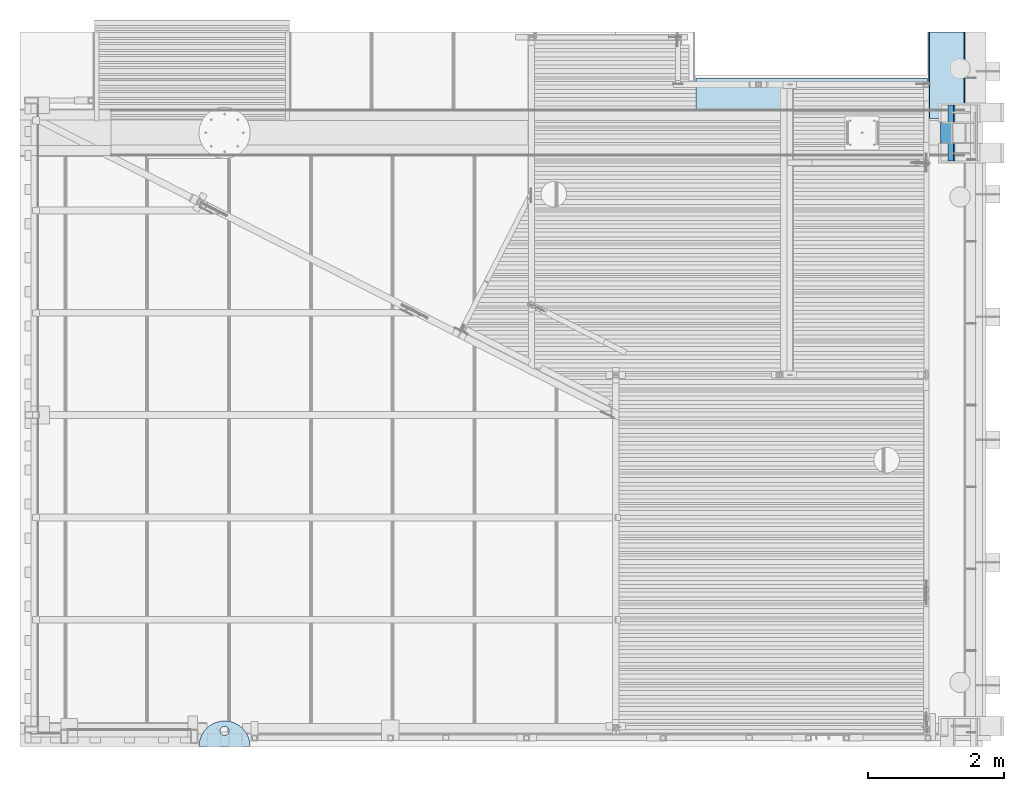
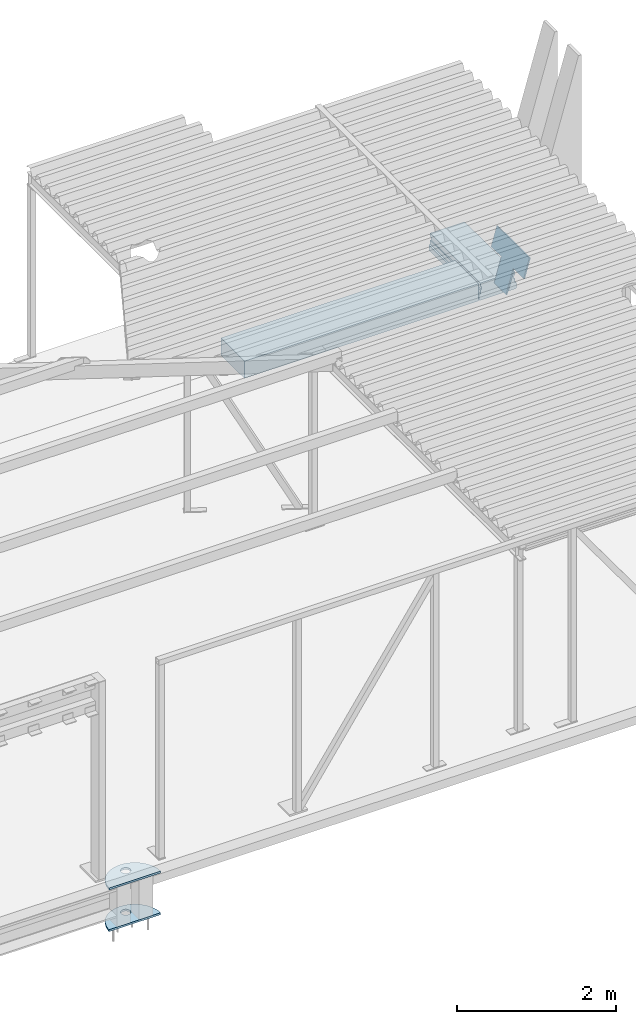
# One storey, part 29 of 30: 3 plates, 2 slabs.
"""IFC2X3 building model written with IfcOpenShell, lengths in millimetres."""

from ifc_helpers import new_model, entity, si_unit, converted_unit, derived_unit, direction, frame, origin_with_axes, place, context, subcontext, project, spatial, faceted_brep, material, type_object, element, save


model = new_model("IFC2X3")

# Units and contexts
model_context = context("Model", 3, precision=0.01, world=frame((0.0, 4.29681676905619e-09, 0.0)), true_north=direction((4.01073788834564e-13, 1.0)))
plan_context = context("Plan", 3, precision=0.01, world=frame((0.0, 4.29681676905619e-09, 0.0)), true_north=direction((4.01073788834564e-13, 1.0)))
body_context = subcontext(model_context, "Body", "Model", "MODEL_VIEW")
ifc_project = project(units=[converted_unit("PLANEANGLEUNIT", "DEGREE", entity("IfcPositiveLengthMeasure", 0.0174532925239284), si_unit("PLANEANGLEUNIT", "RADIAN"), dimensions=[0, 0, 0, 0, 0, 0, 0]), si_unit("AREAUNIT", "SQUARE_METRE"), si_unit("LENGTHUNIT", "METRE", prefix="MILLI"), si_unit("MASSUNIT", "GRAM", prefix="KILO"), si_unit("POWERUNIT", "WATT"), si_unit("PRESSUREUNIT", "PASCAL"), si_unit("FORCEUNIT", "NEWTON", prefix="KILO"), si_unit("ELECTRICVOLTAGEUNIT", "VOLT"), si_unit("ELECTRICCURRENTUNIT", "AMPERE"), si_unit("THERMODYNAMICTEMPERATUREUNIT", "DEGREE_CELSIUS"), si_unit("TIMEUNIT", "SECOND"), si_unit("VOLUMEUNIT", "CUBIC_METRE"), derived_unit("LINEARVELOCITYUNIT", [(si_unit("LENGTHUNIT", "METRE"), 1), (si_unit("TIMEUNIT", "SECOND"), -1)]), derived_unit("VOLUMETRICFLOWRATEUNIT", [(si_unit("VOLUMEUNIT", "CUBIC_METRE"), 1), (si_unit("TIMEUNIT", "SECOND"), -1)]), derived_unit("THERMALTRANSMITTANCEUNIT", [(si_unit("POWERUNIT", "WATT"), 1), (si_unit("THERMODYNAMICTEMPERATUREUNIT", "KELVIN"), -1), (si_unit("AREAUNIT", "SQUARE_METRE"), -1)]), derived_unit("SOUNDPRESSUREUNIT", [(si_unit("PRESSUREUNIT", "PASCAL"), 1)])], contexts=[model_context, plan_context])

# Site, building, storey
site_placement = place(None, frame((0.0, -4.29681676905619e-09, 0.0), z_axis=(0.0, 0.0, 1.0), x_axis=(1.0, 0.0, 0.0)))
site = spatial("IfcSite", under=ifc_project, at=site_placement, Name="Gardermoen", CompositionType="ELEMENT")
building_placement = place(site_placement, frame((0.0, 4.29681676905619e-09, 0.0), z_axis=(0.0, 0.0, 1.0), x_axis=(1.0, 0.0, 0.0)))
building = spatial("IfcBuilding", under=site, at=building_placement, Name="TI", CompositionType="ELEMENT")
storey_placement = place(building_placement, origin_with_axes())
storey = spatial("IfcBuildingStorey", under=building, at=storey_placement, Name="F", CompositionType="ELEMENT", Elevation=0.0)

# Plates
ifc_material_1 = material(Name="STEEL/S355")
plate_type_1 = type_object("IfcPlateType", Name="PL20*683", PredefinedType="NOTDEFINED")
plate_1_placement = place(storey_placement, frame((611700.659906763, 698409.760836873, 211314.494570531), z_axis=(-0.276515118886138, 0.0, -0.961009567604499), x_axis=(0.0, -1.0, 0.0)))
element("IfcPlate", 1, at=plate_1_placement, inside=storey, type_object=plate_type_1, material=ifc_material_1, Name="STÅLSØYLE", ObjectType="PL20*683", context=body_context, shape_type="Brep", body=[
    faceted_brep([(0.0, -10.0, -1.16415321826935e-10), (0.100000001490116, -10.0000000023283, 302.680480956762), (0.100000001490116, 9.99999999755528, 302.680480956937), (0.0, 10.0, -1.16415321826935e-10), (260.0, -10.0000000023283, 302.680480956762), (260.0, 9.99999999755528, 302.680480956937), (260.0, -9.9999999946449, 683.373901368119), (260.0, 10.0000000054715, 683.373901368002), (560.0, -9.9999999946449, 683.373901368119), (560.0, 10.0000000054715, 683.373901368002), (560.0, -10.0000000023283, 302.680480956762), (560.0, 9.99999999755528, 302.680480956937), (820.0, -10.0000000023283, 302.680480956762), (820.0, 9.99999999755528, 302.680480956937), (820.0, -10.0000000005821, -1.45519152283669e-11), (820.0, 10.0000000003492, -1.45519152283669e-11)], [[[0, 1, 2, 3]], [[1, 4, 5, 2]], [[4, 6, 7, 5]], [[6, 8, 9, 7]], [[8, 10, 11, 9]], [[10, 12, 13, 11]], [[12, 14, 15, 13]], [[14, 0, 3, 15]], [[5, 7, 9, 11, 13, 15, 3, 2]], [[14, 12, 10, 8, 6, 4, 1, 0]]]),
])
plate_type_2 = type_object("IfcPlateType", Name="PL30*750", PredefinedType="NOTDEFINED")
plate_2_placement = place(storey_placement, frame((601375.0, 688625.004375, 210705.0), z_axis=(-1.0, 0.0, 0.0), x_axis=(0.0, 1.0, 0.0)))
element("IfcPlate", 2, at=plate_2_placement, inside=storey, type_object=plate_type_2, Name="INNSTØPNGODS", ObjectType="PL30*750", context=body_context, shape_type="Brep", body=[
    faceted_brep([(657.581729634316, -15.0, 336.79395860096), (657.581729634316, 15.0, 336.79395860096), (666.814298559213, 15.0, 354.913895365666), (666.814298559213, -15.0, 354.913895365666), (669.995624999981, 15.0, 375.0), (669.995624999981, -15.0, 375.0), (666.814298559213, 15.0, 395.086104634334), (666.814298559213, -15.0, 395.086104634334), (657.581729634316, 15.0, 413.20604139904), (657.581729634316, -15.0, 413.20604139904), (643.201666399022, 15.0, 427.586104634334), (643.201666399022, -15.0, 427.586104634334), (625.081729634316, 15.0, 436.818673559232), (625.081729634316, -15.0, 436.818673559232), (604.995624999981, 15.0, 440.0), (604.995624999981, -15.0, 440.0), (584.909520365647, 15.0, 436.818673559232), (584.909520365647, -15.0, 436.818673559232), (566.789583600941, 15.0, 427.586104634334), (566.789583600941, -15.0, 427.586104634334), (552.409520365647, 15.0, 413.20604139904), (552.409520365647, -15.0, 413.20604139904), (543.17695144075, 15.0, 395.086104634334), (543.17695144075, -15.0, 395.086104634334), (539.995624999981, 15.0, 375.0), (539.995624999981, -15.0, 375.0), (543.17695144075, 15.0, 354.913895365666), (543.17695144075, -15.0, 354.913895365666), (552.409520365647, 15.0, 336.79395860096), (552.409520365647, -15.0, 336.79395860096), (566.789583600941, 15.0, 322.413895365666), (566.789583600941, -15.0, 322.413895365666), (584.909520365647, 15.0, 313.181326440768), (584.909520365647, -15.0, 313.181326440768), (604.995624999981, 15.0, 310.0), (604.995624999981, -15.0, 310.0), (625.081729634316, 15.0, 313.181326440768), (625.081729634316, -15.0, 313.181326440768), (643.201666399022, 15.0, 322.413895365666), (643.201666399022, -15.0, 322.413895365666), (374.995429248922, -15.0, 0.000276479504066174), (374.995429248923, -15.0, 749.999723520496), (375.0, -15.0, 750.0), (420.201255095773, -15.0, 747.265827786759), (464.743374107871, -15.0, 739.103181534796), (507.976832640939, -15.0, 725.631091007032), (549.27118951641, -15.0, 707.046009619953), (588.024280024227, -15.0, 683.618949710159), (623.670996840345, -15.0, 655.691530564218), (655.691530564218, -15.0, 623.670996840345), (683.618949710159, -15.0, 588.024280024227), (707.046009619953, -15.0, 549.27118951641), (725.631091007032, -15.0, 507.976832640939), (739.103181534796, -15.0, 464.743374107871), (747.265827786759, -15.0, 420.201255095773), (750.0, -15.0, 375.0), (747.265827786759, -15.0, 329.798744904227), (739.103181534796, -15.0, 285.256625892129), (725.631091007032, -15.0, 242.023167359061), (707.046009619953, -15.0, 200.72881048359), (683.618949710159, -15.0, 161.975719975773), (655.691530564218, -15.0, 126.329003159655), (623.670996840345, -15.0, 94.3084694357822), (588.024280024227, -15.0, 66.3810502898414), (549.27118951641, -15.0, 42.9539903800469), (507.976832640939, -15.0, 24.3689089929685), (464.743374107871, -15.0, 10.896818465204), (420.201255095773, -15.0, 2.73417221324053), (375.0, -15.0, 0.0), (374.995581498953, 14.9999999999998, 749.999732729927), (375.0, 15.0, 750.0), (420.201255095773, 15.0, 747.265827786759), (464.743374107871, 15.0, 739.103181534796), (507.976832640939, 15.0, 725.631091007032), (549.27118951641, 15.0, 707.046009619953), (588.024280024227, 15.0, 683.618949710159), (623.670996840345, 15.0, 655.691530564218), (655.691530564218, 15.0, 623.670996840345), (683.618949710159, 15.0, 588.024280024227), (707.046009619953, 15.0, 549.27118951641), (725.631091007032, 15.0, 507.976832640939), (739.103181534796, 15.0, 464.743374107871), (747.265827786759, 15.0, 420.201255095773), (750.0, 15.0, 375.0), (747.265827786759, 15.0, 329.798744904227), (739.103181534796, 15.0, 285.256625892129), (725.631091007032, 15.0, 242.023167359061), (707.046009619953, 15.0, 200.72881048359), (683.618949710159, 15.0, 161.975719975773), (655.691530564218, 15.0, 126.329003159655), (623.670996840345, 15.0, 94.3084694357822), (588.024280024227, 15.0, 66.3810502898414), (549.27118951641, 15.0, 42.9539903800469), (507.976832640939, 15.0, 24.3689089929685), (464.743374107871, 15.0, 10.896818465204), (420.201255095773, 15.0, 2.73417221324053), (375.0, 15.0, 0.0), (374.995624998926, 14.9999999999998, 0.000264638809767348)], [[[0, 1, 2, 3]], [[3, 2, 4, 5]], [[5, 4, 6, 7]], [[7, 6, 8, 9]], [[9, 8, 10, 11]], [[11, 10, 12, 13]], [[13, 12, 14, 15]], [[15, 14, 16, 17]], [[17, 16, 18, 19]], [[19, 18, 20, 21]], [[21, 20, 22, 23]], [[23, 22, 24, 25]], [[25, 24, 26, 27]], [[27, 26, 28, 29]], [[29, 28, 30, 31]], [[31, 30, 32, 33]], [[33, 32, 34, 35]], [[35, 34, 36, 37]], [[37, 36, 38, 39]], [[39, 38, 1, 0]], [[40, 41, 42, 43, 44, 45, 46, 47, 48, 49, 50, 51, 52, 53, 54, 55, 56, 57, 58, 59, 60, 61, 62, 63, 64, 65, 66, 67, 68], [3, 5, 7, 9, 11, 13, 15, 17, 19, 21, 23, 25, 27, 29, 31, 33, 35, 37, 39, 0]], [[41, 69, 70, 42]], [[70, 71, 43, 42]], [[71, 72, 44, 43]], [[72, 73, 45, 44]], [[73, 74, 46, 45]], [[74, 75, 47, 46]], [[75, 76, 48, 47]], [[76, 77, 49, 48]], [[77, 78, 50, 49]], [[78, 79, 51, 50]], [[79, 80, 52, 51]], [[80, 81, 53, 52]], [[81, 82, 54, 53]], [[82, 83, 55, 54]], [[83, 84, 56, 55]], [[84, 85, 57, 56]], [[85, 86, 58, 57]], [[86, 87, 59, 58]], [[87, 88, 60, 59]], [[88, 89, 61, 60]], [[89, 90, 62, 61]], [[90, 91, 63, 62]], [[91, 92, 64, 63]], [[92, 93, 65, 64]], [[93, 94, 66, 65]], [[94, 95, 67, 66]], [[95, 96, 68, 67]], [[97, 40, 68, 96]], [[69, 97, 96, 95, 94, 93, 92, 91, 90, 89, 88, 87, 86, 85, 84, 83, 82, 81, 80, 79, 78, 77, 76, 75, 74, 73, 72, 71, 70], [6, 4, 2, 1, 38, 36, 34, 32, 30, 28, 26, 24, 22, 20, 18, 16, 14, 12, 10, 8]], [[96, 70, 42, 68]]], orient=[[False], [False], [False], [False], [False], [False], [False], [False], [False], [False], [False], [False], [False], [False], [False], [False], [False], [False], [False], [False], [False, False], [False], [False], [False], [False], [False], [False], [False], [False], [False], [False], [False], [False], [False], [False], [False], [False], [False], [False], [False], [False], [False], [False], [False], [False], [False], [False], [False], [False], [False, False], [False]]),
])
plate_3_placement = place(storey_placement, frame((601375.0, 688625.004375, 210065.0), z_axis=(-1.0, 0.0, 0.0), x_axis=(0.0, 1.0, 0.0)))
element("IfcPlate", 3, at=plate_3_placement, inside=storey, type_object=plate_type_2, Name="INNSTØPNGODS", ObjectType="PL30*750", context=body_context, shape_type="Brep", body=[
    faceted_brep([(657.581729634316, -15.0, 336.79395860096), (657.581729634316, 15.0, 336.79395860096), (666.814298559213, 15.0, 354.913895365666), (666.814298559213, -15.0, 354.913895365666), (669.995624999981, 15.0, 375.0), (669.995624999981, -15.0, 375.0), (666.814298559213, 15.0, 395.086104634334), (666.814298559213, -15.0, 395.086104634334), (657.581729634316, 15.0, 413.20604139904), (657.581729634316, -15.0, 413.20604139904), (643.201666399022, 15.0, 427.586104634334), (643.201666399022, -15.0, 427.586104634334), (625.081729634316, 15.0, 436.818673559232), (625.081729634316, -15.0, 436.818673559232), (604.995624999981, 15.0, 440.0), (604.995624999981, -15.0, 440.0), (584.909520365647, 15.0, 436.818673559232), (584.909520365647, -15.0, 436.818673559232), (566.789583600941, 15.0, 427.586104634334), (566.789583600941, -15.0, 427.586104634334), (552.409520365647, 15.0, 413.20604139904), (552.409520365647, -15.0, 413.20604139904), (543.17695144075, 15.0, 395.086104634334), (543.17695144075, -15.0, 395.086104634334), (539.995624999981, 15.0, 375.0), (539.995624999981, -15.0, 375.0), (543.17695144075, 15.0, 354.913895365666), (543.17695144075, -15.0, 354.913895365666), (552.409520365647, 15.0, 336.79395860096), (552.409520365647, -15.0, 336.79395860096), (566.789583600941, 15.0, 322.413895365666), (566.789583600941, -15.0, 322.413895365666), (584.909520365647, 15.0, 313.181326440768), (584.909520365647, -15.0, 313.181326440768), (604.995624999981, 15.0, 310.0), (604.995624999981, -15.0, 310.0), (625.081729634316, 15.0, 313.181326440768), (625.081729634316, -15.0, 313.181326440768), (643.201666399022, 15.0, 322.413895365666), (643.201666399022, -15.0, 322.413895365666), (374.995429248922, -15.0, 0.000276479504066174), (374.995429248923, -15.0, 749.999723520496), (375.0, -15.0, 750.0), (420.201255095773, -15.0, 747.265827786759), (464.743374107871, -15.0, 739.103181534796), (507.976832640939, -15.0, 725.631091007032), (549.27118951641, -15.0, 707.046009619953), (588.024280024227, -15.0, 683.618949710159), (623.670996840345, -15.0, 655.691530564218), (655.691530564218, -15.0, 623.670996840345), (683.618949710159, -15.0, 588.024280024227), (707.046009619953, -15.0, 549.27118951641), (725.631091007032, -15.0, 507.976832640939), (739.103181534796, -15.0, 464.743374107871), (747.265827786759, -15.0, 420.201255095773), (750.0, -15.0, 375.0), (747.265827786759, -15.0, 329.798744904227), (739.103181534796, -15.0, 285.256625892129), (725.631091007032, -15.0, 242.023167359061), (707.046009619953, -15.0, 200.72881048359), (683.618949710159, -15.0, 161.975719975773), (655.691530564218, -15.0, 126.329003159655), (623.670996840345, -15.0, 94.3084694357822), (588.024280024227, -15.0, 66.3810502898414), (549.27118951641, -15.0, 42.9539903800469), (507.976832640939, -15.0, 24.3689089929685), (464.743374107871, -15.0, 10.896818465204), (420.201255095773, -15.0, 2.73417221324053), (375.0, -15.0, 0.0), (374.995581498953, 14.9999999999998, 749.999732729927), (375.0, 15.0, 750.0), (420.201255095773, 15.0, 747.265827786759), (464.743374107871, 15.0, 739.103181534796), (507.976832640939, 15.0, 725.631091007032), (549.27118951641, 15.0, 707.046009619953), (588.024280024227, 15.0, 683.618949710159), (623.670996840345, 15.0, 655.691530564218), (655.691530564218, 15.0, 623.670996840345), (683.618949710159, 15.0, 588.024280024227), (707.046009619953, 15.0, 549.27118951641), (725.631091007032, 15.0, 507.976832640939), (739.103181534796, 15.0, 464.743374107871), (747.265827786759, 15.0, 420.201255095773), (750.0, 15.0, 375.0), (747.265827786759, 15.0, 329.798744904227), (739.103181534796, 15.0, 285.256625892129), (725.631091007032, 15.0, 242.023167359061), (707.046009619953, 15.0, 200.72881048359), (683.618949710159, 15.0, 161.975719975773), (655.691530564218, 15.0, 126.329003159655), (623.670996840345, 15.0, 94.3084694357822), (588.024280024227, 15.0, 66.3810502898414), (549.27118951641, 15.0, 42.9539903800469), (507.976832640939, 15.0, 24.3689089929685), (464.743374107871, 15.0, 10.896818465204), (420.201255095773, 15.0, 2.73417221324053), (375.0, 15.0, 0.0), (374.995624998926, 14.9999999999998, 0.000264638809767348)], [[[0, 1, 2, 3]], [[3, 2, 4, 5]], [[5, 4, 6, 7]], [[7, 6, 8, 9]], [[9, 8, 10, 11]], [[11, 10, 12, 13]], [[13, 12, 14, 15]], [[15, 14, 16, 17]], [[17, 16, 18, 19]], [[19, 18, 20, 21]], [[21, 20, 22, 23]], [[23, 22, 24, 25]], [[25, 24, 26, 27]], [[27, 26, 28, 29]], [[29, 28, 30, 31]], [[31, 30, 32, 33]], [[33, 32, 34, 35]], [[35, 34, 36, 37]], [[37, 36, 38, 39]], [[39, 38, 1, 0]], [[40, 41, 42, 43, 44, 45, 46, 47, 48, 49, 50, 51, 52, 53, 54, 55, 56, 57, 58, 59, 60, 61, 62, 63, 64, 65, 66, 67, 68], [3, 5, 7, 9, 11, 13, 15, 17, 19, 21, 23, 25, 27, 29, 31, 33, 35, 37, 39, 0]], [[41, 69, 70, 42]], [[70, 71, 43, 42]], [[71, 72, 44, 43]], [[72, 73, 45, 44]], [[73, 74, 46, 45]], [[74, 75, 47, 46]], [[75, 76, 48, 47]], [[76, 77, 49, 48]], [[77, 78, 50, 49]], [[78, 79, 51, 50]], [[79, 80, 52, 51]], [[80, 81, 53, 52]], [[81, 82, 54, 53]], [[82, 83, 55, 54]], [[83, 84, 56, 55]], [[84, 85, 57, 56]], [[85, 86, 58, 57]], [[86, 87, 59, 58]], [[87, 88, 60, 59]], [[88, 89, 61, 60]], [[89, 90, 62, 61]], [[90, 91, 63, 62]], [[91, 92, 64, 63]], [[92, 93, 65, 64]], [[93, 94, 66, 65]], [[94, 95, 67, 66]], [[95, 96, 68, 67]], [[97, 40, 68, 96]], [[69, 97, 96, 95, 94, 93, 92, 91, 90, 89, 88, 87, 86, 85, 84, 83, 82, 81, 80, 79, 78, 77, 76, 75, 74, 73, 72, 71, 70], [6, 4, 2, 1, 38, 36, 34, 32, 30, 28, 26, 24, 22, 20, 18, 16, 14, 12, 10, 8]], [[96, 70, 42, 68]]], orient=[[False], [False], [False], [False], [False], [False], [False], [False], [False], [False], [False], [False], [False], [False], [False], [False], [False], [False], [False], [False], [False, False], [False], [False], [False], [False], [False], [False], [False], [False], [False], [False], [False], [False], [False], [False], [False], [False], [False], [False], [False], [False], [False], [False], [False], [False], [False], [False], [False], [False], [False, False], [False]]),
])

# Slabs
slab_type_1 = type_object("IfcSlabType", Name="8580*265", PredefinedType="NOTDEFINED")
slab_1_placement = place(storey_placement, frame((611859.842777, 702500.004905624, 210425.000858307), z_axis=(-0.707039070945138, 0.0, 0.707174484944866), x_axis=(-0.707174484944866, 0.0, -0.707039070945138)))
element("IfcSlab", 4, at=slab_1_placement, inside=storey, type_object=slab_type_1, Name="PREFABDEKKE", ObjectType="8580*265", PredefinedType="FLOOR", context=body_context, shape_type="Brep", body=[
    faceted_brep([(-56.5631484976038, 3024.50490562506, 56.5739364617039), (0.0, 3024.50490562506, 0.0), (0.0, 4290.0, 0.0), (-56.5631484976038, 4290.0, 56.5739364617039), (-48.0782241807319, 3024.50490562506, 76.3696136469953), (-48.0782241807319, 4290.0, 76.3696136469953), (-88.3795852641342, 3024.50490562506, 116.678657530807), (-88.3795852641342, 4290.0, 116.678657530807), (-83.427696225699, 3024.50490562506, 128.699478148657), (-83.427696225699, 4290.0, 128.699478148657), (-118.779800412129, 3024.50490562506, 164.058319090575), (-118.779800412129, 4290.0, 164.058319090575), (-130.801910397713, 3024.50490562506, 159.109069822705), (-130.801910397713, 4290.0, 159.109069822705), (-166.153671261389, 3024.50490562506, 194.467575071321), (-166.153671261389, 4290.0, 194.467575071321), (187.43344117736, 3024.50490562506, 547.987243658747), (187.43344117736, 4290.0, 547.987243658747), (222.785202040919, 3024.50490562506, 512.628723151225), (222.785202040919, 4290.0, 512.628723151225), (217.833648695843, 3024.50490562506, 500.60757446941), (217.833648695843, 4290.0, 500.60757446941), (253.185760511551, 3024.50490562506, 465.248748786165), (253.185760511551, 4290.0, 465.248748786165), (265.207519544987, 3024.50490562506, 470.198333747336), (265.207519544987, 4290.0, 470.198333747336), (305.508880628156, 3024.50490562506, 429.889282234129), (305.508880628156, 4290.0, 429.889282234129), (325.311615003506, 3024.50490562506, 438.375793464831), (325.311615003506, 4290.0, 438.375793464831), (381.874725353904, 3024.50490562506, 381.801910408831), (381.874725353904, 4290.0, 381.801910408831), (381.872009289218, 3024.50490562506, 367.658081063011), (381.872009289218, 4290.0, 367.658081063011), (14.1438083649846, 3024.50490562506, 8.14907252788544e-10), (14.1438083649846, 4290.0, 8.14907252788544e-10)], [[[0, 1, 2, 3]], [[4, 0, 3, 5]], [[6, 4, 5, 7]], [[8, 6, 7, 9]], [[10, 8, 9, 11]], [[12, 10, 11, 13]], [[14, 12, 13, 15]], [[16, 14, 15, 17]], [[18, 16, 17, 19]], [[20, 18, 19, 21]], [[22, 20, 21, 23]], [[24, 22, 23, 25]], [[26, 24, 25, 27]], [[28, 26, 27, 29]], [[30, 28, 29, 31]], [[32, 30, 31, 33]], [[34, 32, 33, 35]], [[1, 34, 35, 2]], [[3, 2, 35, 33, 31, 29, 27, 25, 23, 21, 19, 17, 15, 13, 11, 9, 7, 5]], [[4, 6, 8, 10, 12, 14, 16, 18, 20, 22, 24, 26, 28, 30, 32, 34, 1, 0]]], orient=[[False], [False], [False], [False], [False], [False], [False], [False], [False], [False], [False], [False], [False], [False], [False], [False], [False], [False], [False], [False]]),
])
ifc_material_2 = material(Name="CONCRETE/C35/45")
slab_type_2 = type_object("IfcSlabType", Name="265*590", PredefinedType="NOTDEFINED")
slab_2_placement = place(storey_placement, frame((607909.998416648, 698799.999414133, 210547.500495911), z_axis=(1.0, 0.0, 0.0), x_axis=(0.0, -1.0, 0.0)))
element("IfcSlab", 5, at=slab_2_placement, inside=storey, type_object=slab_type_2, material=ifc_material_2, Name="PREFABDEKKE", ObjectType="265*590", PredefinedType="FLOOR", context=body_context, shape_type="Brep", body=[
    faceted_brep([(0.0, -132.500000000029, -1.74622982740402e-10), (0.0, -132.5, 3400.00146484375), (0.0, 132.5, 3400.00146484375), (0.0, 132.499999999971, -1.74622982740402e-10), (589.996337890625, -132.5, 3400.00146484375), (589.996337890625, 132.5, 3400.00146484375), (589.996337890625, -132.5, 0.0), (589.996337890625, 132.5, 0.0)], [[[0, 1, 2, 3]], [[1, 4, 5, 2]], [[4, 6, 7, 5]], [[6, 0, 3, 7]], [[5, 7, 3, 2]], [[6, 4, 1, 0]]]),
])

save(model, "model.ifc")
